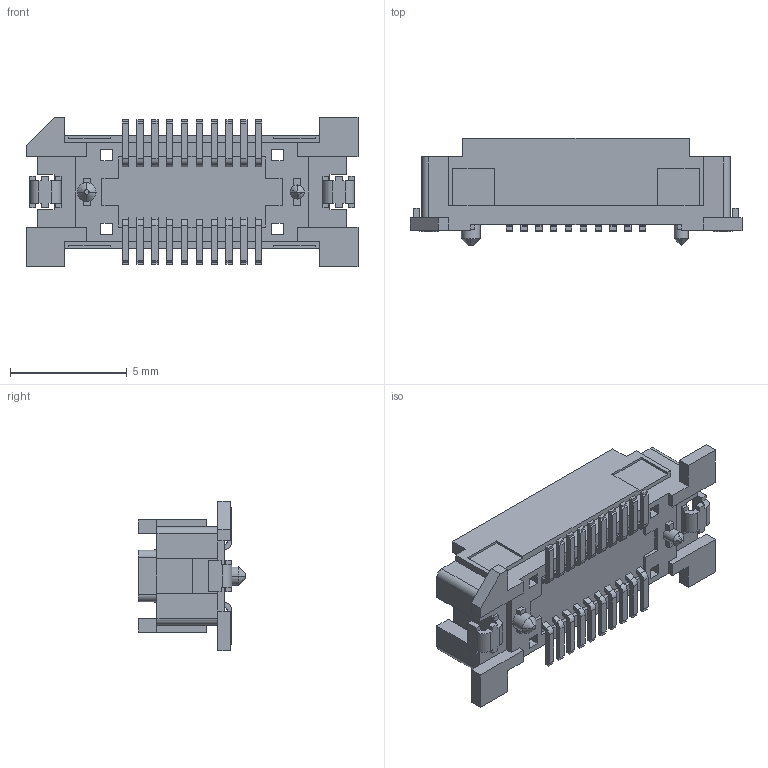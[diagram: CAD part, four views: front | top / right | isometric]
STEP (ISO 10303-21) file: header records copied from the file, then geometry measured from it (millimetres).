
FILE_DESCRIPTION(/* description */ (''),/* implementation_level */ '2;1');
FILE_NAME(/* name */ '0528850274_stp.stp',/* time_stamp */ '2026-03-12T08:27:38+05:30',/* author */ (''),/* organization */ (''),/* preprocessor_version */ 'ST-DEVELOPER v19.4',/* originating_system */ 'SIEMENS PLM Software NX2212.9160',/* authorisation */ '');
FILE_SCHEMA (('AUTOMOTIVE_DESIGN { 1 0 10303 214 3 1 1 1 }'));
Length unit declared in the file: millimetre
Products named in the file (1): 0528850274_stp
Bounding box: 14.22 x 4.6 x 6.4 mm (x, y, z)
Volume: 149.3 mm3; surface area: 485.4 mm2
Topology: 1 solids, 1 shells, 564 faces, 1645 edges, 1215 vertices
Faces by surface type: plane 456, cylinder 100, cone 8
Entity records: 18597 total; most frequent: CARTESIAN_POINT 3233, ORIENTED_EDGE 3094, DIRECTION 2991, EDGE_CURVE 1547, LINE 1421, VECTOR 1421, VERTEX_POINT 1027, AXIS2_PLACEMENT_3D 785
